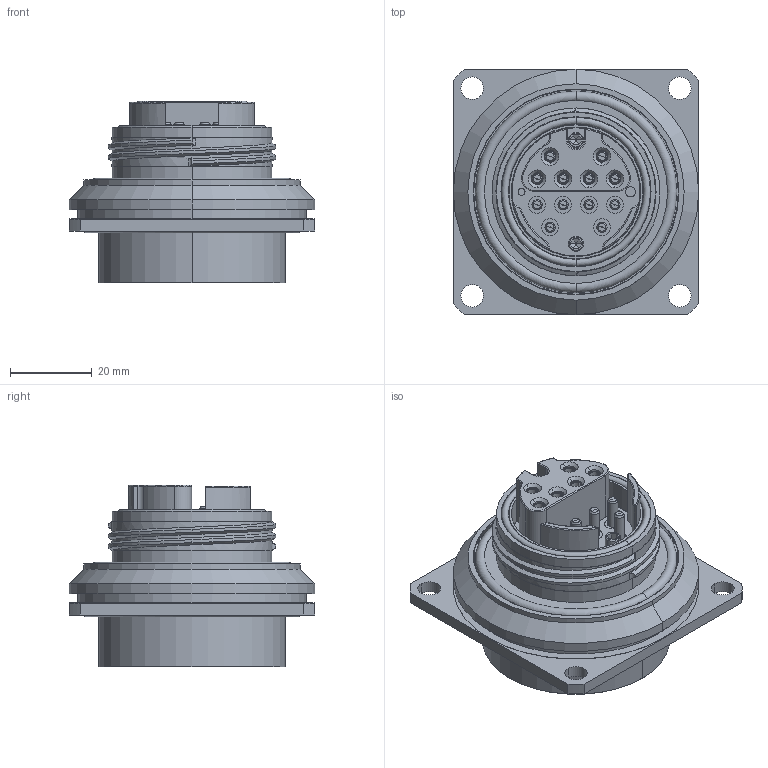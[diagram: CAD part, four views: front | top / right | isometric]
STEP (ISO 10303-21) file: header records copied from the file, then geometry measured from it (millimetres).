
FILE_DESCRIPTION (( 'STEP AP214' ), '1' );
FILE_NAME ('QFOCA-RFXX-12CH-X-S0X.STEP', '2025-06-09T19:45:29', ( '' ), ( '' ), 'SwSTEP 2.0', 'SolidWorks 2024', '' );
FILE_SCHEMA (( 'AUTOMOTIVE_DESIGN' ));
Length unit declared in the file: inch
Products named in the file (1): QFOCA-RFXX-12CH-X-S0X
Bounding box: 60.2 x 60.2 x 44.5 mm (x, y, z)
Volume: 63251.3 mm3; surface area: 26995.3 mm2
Topology: 10 solids, 12 shells, 611 faces, 1359 edges, 843 vertices
Faces by surface type: cylinder 256, plane 162, torus 108, cone 72, bspline 13
Entity records: 20468 total; most frequent: CARTESIAN_POINT 6509, DIRECTION 3136, ORIENTED_EDGE 2718, EDGE_CURVE 1359, AXIS2_PLACEMENT_3D 1320, VERTEX_POINT 843, CIRCLE 721, EDGE_LOOP 700
